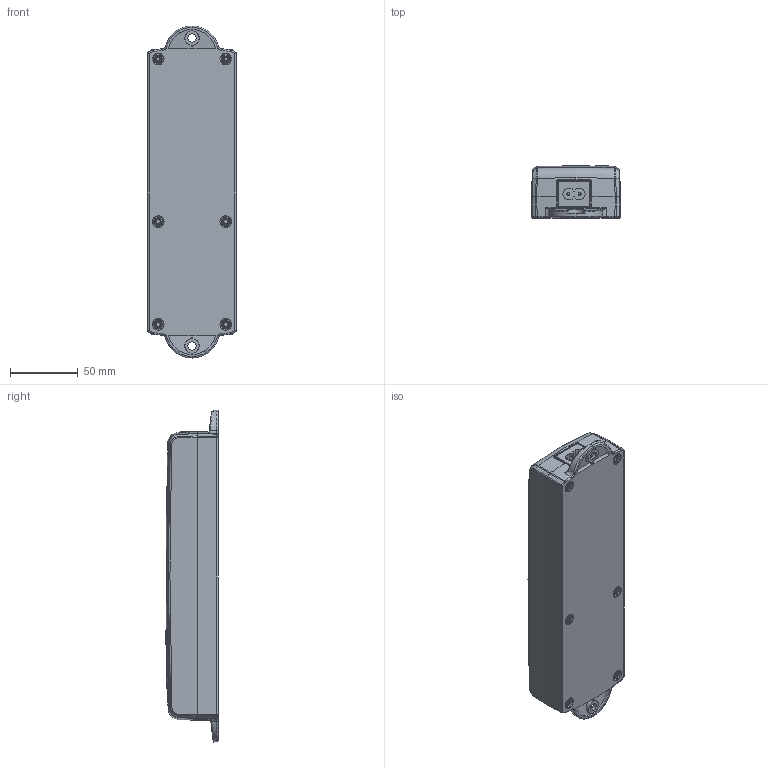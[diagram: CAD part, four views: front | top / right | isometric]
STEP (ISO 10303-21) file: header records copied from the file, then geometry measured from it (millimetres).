
FILE_DESCRIPTION (( 'STEP AP203' ), '1' );
FILE_NAME ('3D_TC11-A.STEP', '2018-03-19T04:00:16', ( '' ), ( '' ), 'SwSTEP 2.0', 'SolidWorks 2015', '' );
FILE_SCHEMA (( 'CONFIG_CONTROL_DESIGN' ));
Length unit declared in the file: millimetre
Products named in the file (1): 3D_TC11-A
Bounding box: 66 x 38.83 x 245.87 mm (x, y, z)
Volume: 521507 mm3; surface area: 86286.8 mm2
Topology: 11 solids, 11 shells, 822 faces, 2126 edges, 1358 vertices
Faces by surface type: plane 305, bspline 252, cylinder 167, torus 50, sphere 30, cone 18
Entity records: 31979 total; most frequent: CARTESIAN_POINT 14174, ORIENTED_EDGE 4224, DIRECTION 2881, EDGE_CURVE 2112, VERTEX_POINT 1354, AXIS2_PLACEMENT_3D 1034, EDGE_LOOP 868, FACE_OUTER_BOUND 822
